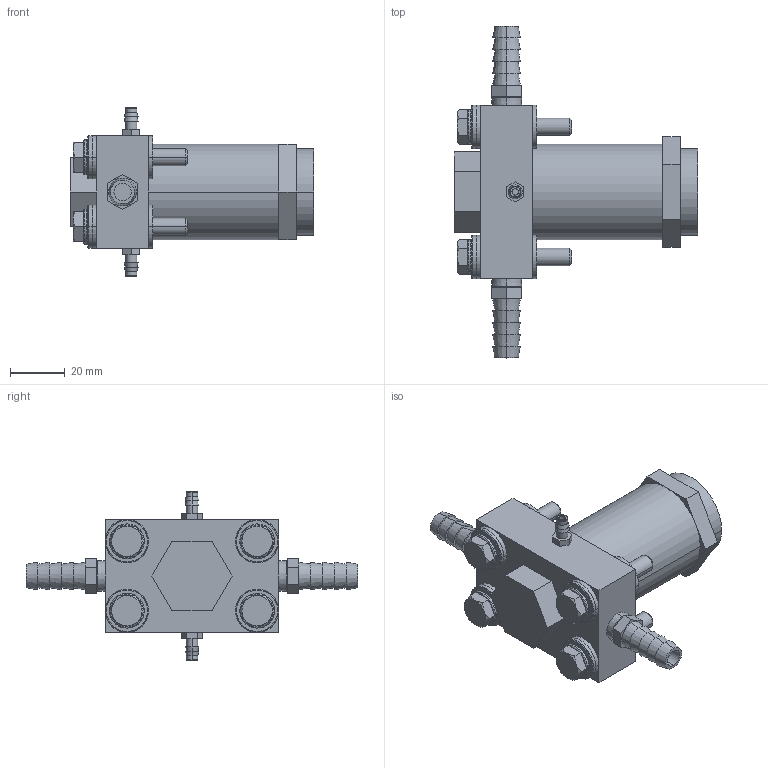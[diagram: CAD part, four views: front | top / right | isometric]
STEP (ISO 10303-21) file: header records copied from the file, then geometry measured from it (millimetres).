
FILE_DESCRIPTION((''),'2;1');
FILE_NAME('UKR3_ASM','2017-08-24T',('jennifer.elliott'),('CenterLine (Windsor) Ltd - Automation Components Division'),'PRO/ENGINEER BY PARAMETRIC TECHNOLOGY CORPORATION, 2015030','PRO/ENGINEER BY PARAMETRIC TECHNOLOGY CORPORATION, 2015030','');
FILE_SCHEMA(('AUTOMOTIVE_DESIGN { 1 0 10303 214 1 1 1 1 }'));
Length unit declared in the file: inch
Products named in the file (31): PRT0555; PRT0556; PRT0557; PRT0558; PRT0559; TMP_DWG-3DSOLID_37_ASM; PRT0560; PRT0561; PRT0562; PRT0563; PRT0564; PRT0565; PRT0566; PRT0567; PRT0568; PRT0569; PRT0570; PRT0571; PRT0572; PRT0573; PRT0574; PRT0575; PRT0576; PRT0577; PRT0578; PRT0579; PRT0580; PRT0581; PRT0582; PRT0583; UKR3_ASM
Assembly tree (30 placements, depth 3):
  UKR3_ASM
    PRT0555
    TMP_DWG-3DSOLID_37_ASM
      PRT0556
      PRT0557
      PRT0558
      PRT0559
    PRT0560
    PRT0561
    PRT0562
    PRT0563
    PRT0564
    PRT0565
    PRT0566
    PRT0567
    PRT0568
    PRT0569
    PRT0570
    PRT0571
    PRT0572
    PRT0573
    PRT0574
    PRT0575
    PRT0576
    PRT0577
    PRT0578
    PRT0579
    PRT0580
    PRT0581
    PRT0582
    PRT0583
Bounding box: 88.9 x 121.41 x 61.9 mm (x, y, z)
Volume: 123623.6 mm3; surface area: 43034.5 mm2
Topology: 29 solids, 29 shells, 346 faces, 760 edges, 496 vertices
Faces by surface type: plane 158, cylinder 92, cone 64, torus 32
Entity records: 11935 total; most frequent: CARTESIAN_POINT 2207, DIRECTION 1854, ORIENTED_EDGE 1520, AXIS2_PLACEMENT_3D 771, EDGE_CURVE 760, VERTEX_POINT 496, EDGE_LOOP 402, CIRCLE 360
